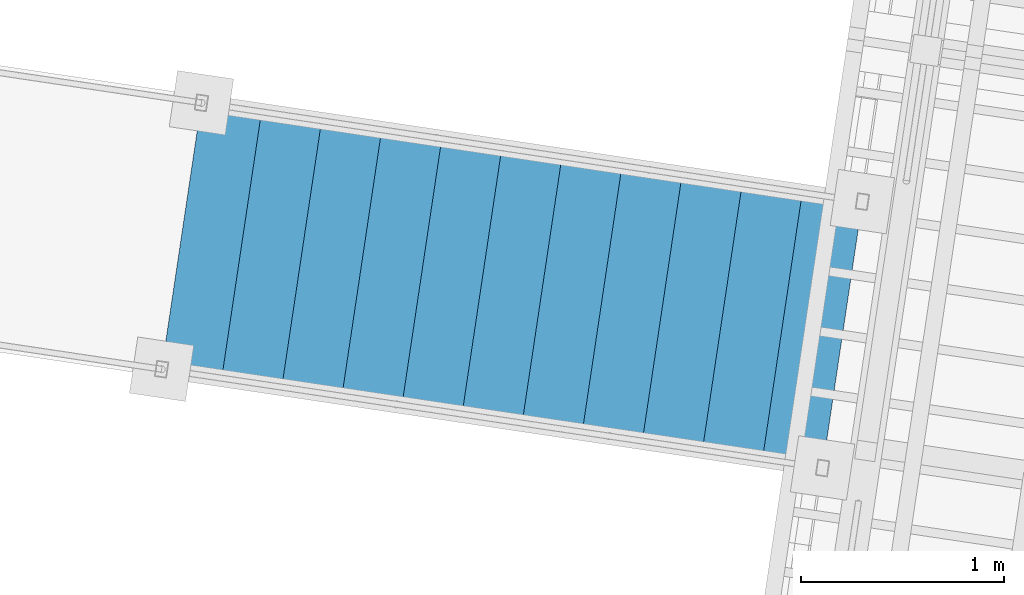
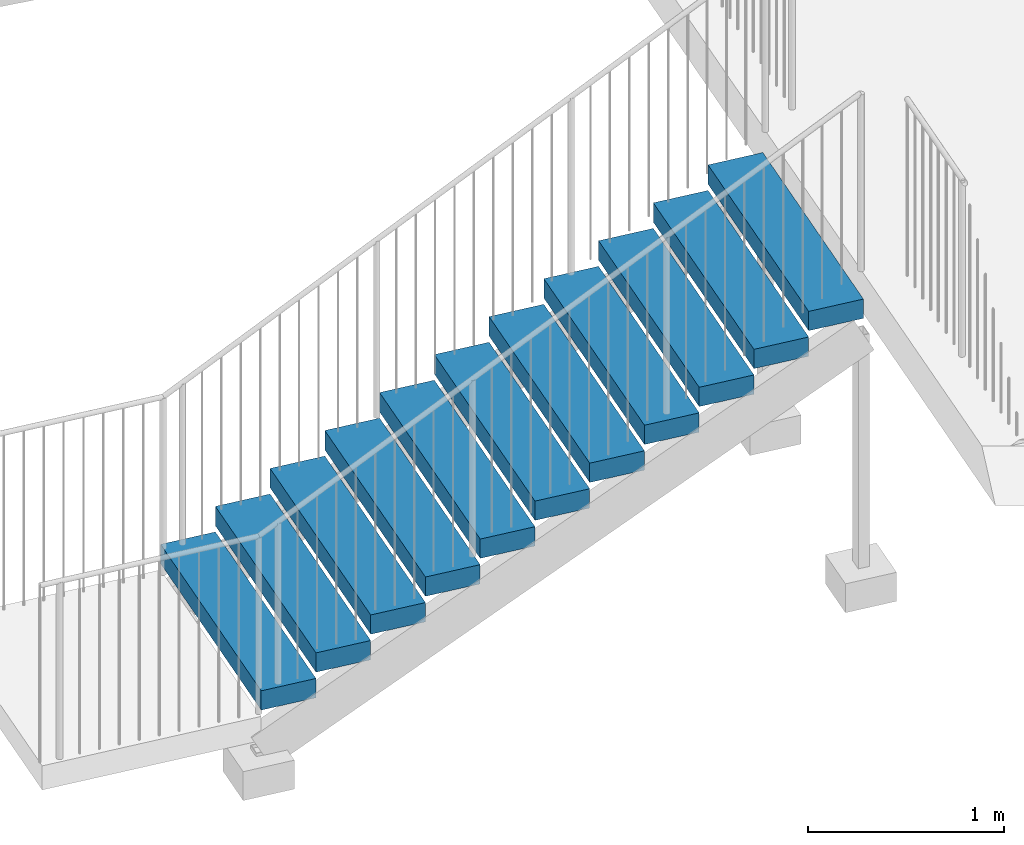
# One storey, part 122 of 131: 1 stair flight, 1 element without a shape of its own.
"""IFC4 building model written with IfcOpenShell, lengths in metres."""

from ifc_helpers import new_model, si_unit, direction, frame, origin_with_axes, place, context, subcontext, project, spatial, polyline, outline, extrude, material, element, aggregate, save


model = new_model("IFC4")

# Units and contexts
model_context = context("Model", 3, precision=1e-05, world=origin_with_axes(), true_north=direction((0.0, 1.0)))
body_context = subcontext(model_context, "Body", "Model", "MODEL_VIEW")
ifc_project = project(units=[si_unit("VOLUMEUNIT", "CUBIC_METRE"), si_unit("LENGTHUNIT", "METRE"), si_unit("AREAUNIT", "SQUARE_METRE")], contexts=[model_context])

# Site, building, storey
site_placement = place(None, origin_with_axes())
site = spatial("IfcSite", under=ifc_project, at=site_placement, Name="Lares · Rua das Mercês · artigo 4771")
building_placement = place(site_placement, frame((15.0, 9.7, 14.65), z_axis=(0.0, 0.0, 1.0), x_axis=(0.989015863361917, -0.147809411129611, 0.0)))
building = spatial("IfcBuilding", under=site, at=building_placement, Name="Casa Sobreposta")
storey_placement = place(building_placement, origin_with_axes())
storey = spatial("IfcBuildingStorey", under=building, at=storey_placement, Name="00 · Habitação e estacionamento", Elevation=14.65)

# Stair, stair flight
stair_placement = place(storey_placement, origin_with_axes())
stair = element("IfcStair", 1, at=stair_placement, inside=storey, Name="Jardim · escada pela fachada poente", PredefinedType="STRAIGHT_RUN_STAIR")
ifc_material = material(Name="Betão armado / Stahlbeton", Category="concrete")
stair_flight_placement = place(stair_placement, origin_with_axes())
stair_flight = element("IfcStairFlight", 2, at=stair_flight_placement, material=ifc_material, Name="Jardim · lanço poente", NumberOfRisers=12, NumberOfTreads=11, PredefinedType="STRAIGHT", RiserHeight=0.159166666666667, TreadLength=0.3, context=body_context, shape_type="SweptSolid", body=[
    extrude(outline(polyline([(-6.25, 0.4), (-6.25, 1.8), (-6.55, 1.8), (-6.55, 0.4), (-6.25, 0.4)])), frame((0.0, 0.0, -0.319166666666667), z_axis=(0.0, 0.0, 1.0), x_axis=(1.0, 0.0, 0.0)), (0.0, 0.0, 1.0), 0.12),
    extrude(outline(polyline([(-6.55, 0.4), (-6.55, 1.8), (-6.85, 1.8), (-6.85, 0.4), (-6.55, 0.4)])), frame((0.0, 0.0, -0.478333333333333), z_axis=(0.0, 0.0, 1.0), x_axis=(1.0, 0.0, 0.0)), (0.0, 0.0, 1.0), 0.12),
    extrude(outline(polyline([(-6.85, 0.4), (-6.85, 1.8), (-7.15, 1.8), (-7.15, 0.4), (-6.85, 0.4)])), frame((0.0, 0.0, -0.6375), z_axis=(0.0, 0.0, 1.0), x_axis=(1.0, 0.0, 0.0)), (0.0, 0.0, 1.0), 0.12),
    extrude(outline(polyline([(-7.15, 0.4), (-7.15, 1.8), (-7.45, 1.8), (-7.45, 0.4), (-7.15, 0.4)])), frame((0.0, 0.0, -0.796666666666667), z_axis=(0.0, 0.0, 1.0), x_axis=(1.0, 0.0, 0.0)), (0.0, 0.0, 1.0), 0.12),
    extrude(outline(polyline([(-7.45, 0.4), (-7.45, 1.8), (-7.75, 1.8), (-7.75, 0.4), (-7.45, 0.4)])), frame((0.0, 0.0, -0.955833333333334), z_axis=(0.0, 0.0, 1.0), x_axis=(1.0, 0.0, 0.0)), (0.0, 0.0, 1.0), 0.12),
    extrude(outline(polyline([(-7.75, 0.4), (-7.75, 1.8), (-8.05, 1.8), (-8.05, 0.4), (-7.75, 0.4)])), frame((0.0, 0.0, -1.115), z_axis=(0.0, 0.0, 1.0), x_axis=(1.0, 0.0, 0.0)), (0.0, 0.0, 1.0), 0.12),
    extrude(outline(polyline([(-8.05, 0.4), (-8.05, 1.8), (-8.35, 1.8), (-8.35, 0.4), (-8.05, 0.4)])), frame((0.0, 0.0, -1.27416666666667), z_axis=(0.0, 0.0, 1.0), x_axis=(1.0, 0.0, 0.0)), (0.0, 0.0, 1.0), 0.12),
    extrude(outline(polyline([(-8.35, 0.4), (-8.35, 1.8), (-8.65, 1.8), (-8.65, 0.4), (-8.35, 0.4)])), frame((0.0, 0.0, -1.43333333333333), z_axis=(0.0, 0.0, 1.0), x_axis=(1.0, 0.0, 0.0)), (0.0, 0.0, 1.0), 0.12),
    extrude(outline(polyline([(-8.65, 0.4), (-8.65, 1.8), (-8.95, 1.8), (-8.95, 0.4), (-8.65, 0.4)])), frame((0.0, 0.0, -1.5925), z_axis=(0.0, 0.0, 1.0), x_axis=(1.0, 0.0, 0.0)), (0.0, 0.0, 1.0), 0.12),
    extrude(outline(polyline([(-8.95, 0.4), (-8.95, 1.8), (-9.25, 1.8), (-9.25, 0.4), (-8.95, 0.4)])), frame((0.0, 0.0, -1.75166666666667), z_axis=(0.0, 0.0, 1.0), x_axis=(1.0, 0.0, 0.0)), (0.0, 0.0, 1.0), 0.12),
    extrude(outline(polyline([(-9.25, 0.4), (-9.25, 1.8), (-9.55, 1.8), (-9.55, 0.4), (-9.25, 0.4)])), frame((0.0, 0.0, -1.91083333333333), z_axis=(0.0, 0.0, 1.0), x_axis=(1.0, 0.0, 0.0)), (0.0, 0.0, 1.0), 0.12),
])
aggregate(stair, [stair_flight])

save(model, "model.ifc")
